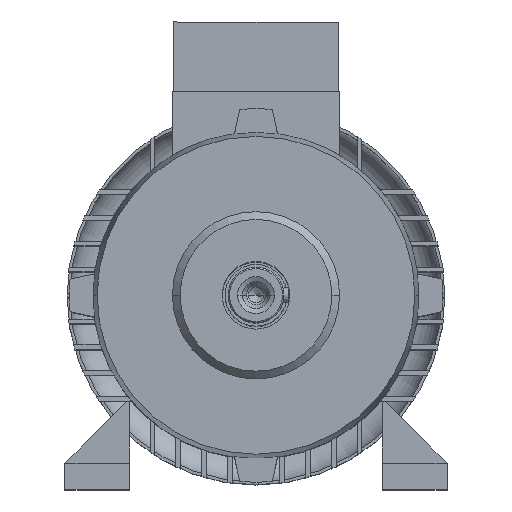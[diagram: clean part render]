
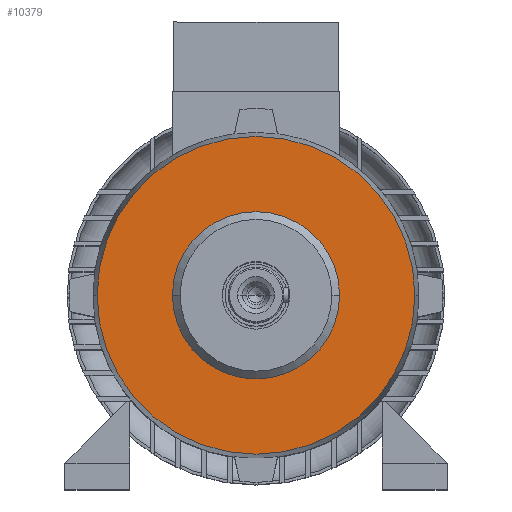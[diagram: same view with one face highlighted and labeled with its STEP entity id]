
A CAD part, top view. The second image highlights one B-rep face of the part: STEP entity #10379.
In plain terms, the highlighted planar face has unit normal (0, 0, 1).
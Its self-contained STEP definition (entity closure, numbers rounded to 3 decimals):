
#299 = CARTESIAN_POINT ( 'NONE',  ( 0., 0., 170.72 ) ) ;
#440 = VERTEX_POINT ( 'NONE', #9480 ) ;
#1163 = CIRCLE ( 'NONE', #4591, 108.079 ) ;
#1219 = CIRCLE ( 'NONE', #2030, 56.88 ) ;
#1276 = DIRECTION ( 'NONE',  ( 0., 0., 1. ) ) ;
#1600 = VERTEX_POINT ( 'NONE', #3031 ) ;
#1656 = EDGE_CURVE ( 'NONE', #6666, #440, #2296, .T. ) ;
#1861 = EDGE_CURVE ( 'NONE', #1600, #2376, #1163, .T. ) ;
#2030 = AXIS2_PLACEMENT_3D ( 'NONE', #12002, #7340, #3027 ) ;
#2296 = CIRCLE ( 'NONE', #11885, 56.88 ) ;
#2372 = CARTESIAN_POINT ( 'NONE',  ( 0., 0., 170.72 ) ) ;
#2376 = VERTEX_POINT ( 'NONE', #8312 ) ;
#3027 = DIRECTION ( 'NONE',  ( 1., 0., 0. ) ) ;
#3031 = CARTESIAN_POINT ( 'NONE',  ( 108.079, 0., 170.72 ) ) ;
#3571 = AXIS2_PLACEMENT_3D ( 'NONE', #8185, #10067, #8233 ) ;
#4075 = DIRECTION ( 'NONE',  ( 0., 0., 1. ) ) ;
#4103 = CIRCLE ( 'NONE', #6623, 108.079 ) ;
#4388 = ORIENTED_EDGE ( 'NONE', *, *, #1656, .F. ) ;
#4591 = AXIS2_PLACEMENT_3D ( 'NONE', #2372, #12649, #6784 ) ;
#5082 = DIRECTION ( 'NONE',  ( 1., 0., 0. ) ) ;
#6470 = ORIENTED_EDGE ( 'NONE', *, *, #1861, .T. ) ;
#6478 = ORIENTED_EDGE ( 'NONE', *, *, #10390, .T. ) ;
#6623 = AXIS2_PLACEMENT_3D ( 'NONE', #299, #1276, #5082 ) ;
#6666 = VERTEX_POINT ( 'NONE', #8682 ) ;
#6784 = DIRECTION ( 'NONE',  ( 1., 0., 0. ) ) ;
#7043 = DIRECTION ( 'NONE',  ( 1., 0., 0. ) ) ;
#7338 = FACE_BOUND ( 'NONE', #8829, .T. ) ;
#7340 = DIRECTION ( 'NONE',  ( 0., 0., 1. ) ) ;
#8185 = CARTESIAN_POINT ( 'NONE',  ( 0., 108.079, 170.72 ) ) ;
#8233 = DIRECTION ( 'NONE',  ( 1., 0., 0. ) ) ;
#8312 = CARTESIAN_POINT ( 'NONE',  ( -108.079, 0., 170.72 ) ) ;
#8682 = CARTESIAN_POINT ( 'NONE',  ( 56.88, 0., 170.72 ) ) ;
#8732 = FACE_OUTER_BOUND ( 'NONE', #11277, .T. ) ;
#8829 = EDGE_LOOP ( 'NONE', ( #4388, #11945 ) ) ;
#9480 = CARTESIAN_POINT ( 'NONE',  ( -56.88, 0., 170.72 ) ) ;
#10067 = DIRECTION ( 'NONE',  ( 0., 0., -1. ) ) ;
#10379 = ADVANCED_FACE ( 'NONE', ( #8732, #7338 ), #12084, .F. ) ;
#10390 = EDGE_CURVE ( 'NONE', #2376, #1600, #4103, .T. ) ;
#11028 = CARTESIAN_POINT ( 'NONE',  ( 0., 0., 170.72 ) ) ;
#11277 = EDGE_LOOP ( 'NONE', ( #6470, #6478 ) ) ;
#11885 = AXIS2_PLACEMENT_3D ( 'NONE', #11028, #4075, #7043 ) ;
#11945 = ORIENTED_EDGE ( 'NONE', *, *, #12323, .F. ) ;
#12002 = CARTESIAN_POINT ( 'NONE',  ( 0., 0., 170.72 ) ) ;
#12084 = PLANE ( 'NONE',  #3571 ) ;
#12323 = EDGE_CURVE ( 'NONE', #440, #6666, #1219, .T. ) ;
#12649 = DIRECTION ( 'NONE',  ( 0., 0., 1. ) ) ;
